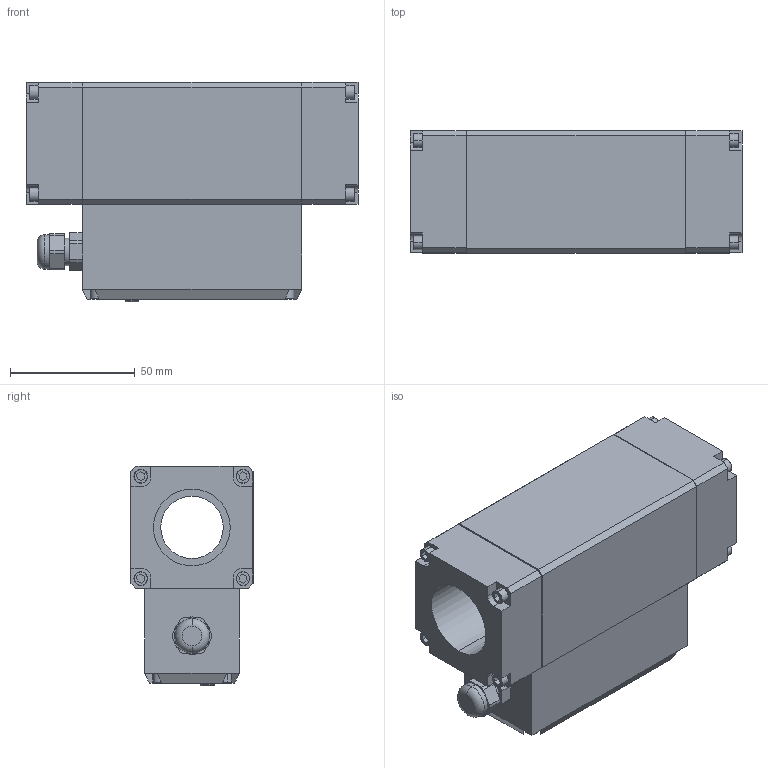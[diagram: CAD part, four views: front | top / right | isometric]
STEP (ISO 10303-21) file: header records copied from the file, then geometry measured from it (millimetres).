
FILE_DESCRIPTION (( 'STEP AP203' ), '1' );
FILE_NAME ('重庆捷定力MF625 流量计3D图示 step.STEP', '2023-07-17T05:06:48', ( '微软用户' ), ( '微软中国' ), 'SwSTEP 2.0', 'SolidWorks 2016', '' );
FILE_SCHEMA (( 'CONFIG_CONTROL_DESIGN' ));
Length unit declared in the file: millimetre
Products named in the file (5): 重庆捷定力MF625 流量计3D图示 step; MF625-2; MF625-1; MF625-3; M3蹟邡
Assembly tree (16 placements, depth 2):
  重庆捷定力MF625 流量计3D图示 step
    MF625-2
    MF625-1
    MF625-3  x2
    M3蹟邡  x12
Bounding box: 133 x 49 x 88 mm (x, y, z)
Volume: 365528.4 mm3; surface area: 68574.7 mm2
Topology: 16 solids, 16 shells, 778 faces, 1985 edges, 1288 vertices
Faces by surface type: plane 436, bspline 147, cylinder 119, torus 52, cone 24
Entity records: 23462 total; most frequent: CARTESIAN_POINT 10331, ORIENTED_EDGE 2842, DIRECTION 2007, EDGE_CURVE 1421, VECTOR 1003, LINE 1003, VERTEX_POINT 934, EDGE_LOOP 561
